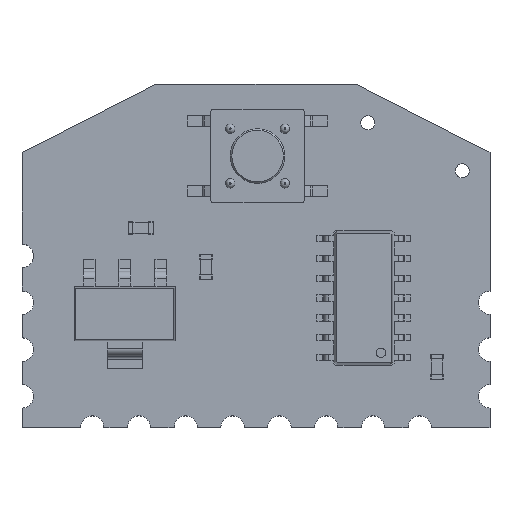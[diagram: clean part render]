
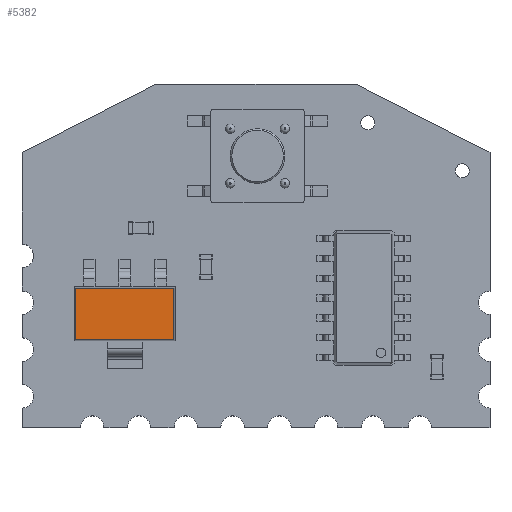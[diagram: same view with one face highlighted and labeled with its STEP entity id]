
A CAD part, top view. The second image highlights one B-rep face of the part: STEP entity #5382.
In plain terms, the highlighted planar face has unit normal (0, 0, 1).
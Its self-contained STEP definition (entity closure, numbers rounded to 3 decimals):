
#1540 = B_SPLINE_SURFACE_WITH_KNOTS('',1,1,(
    (#1541,#1542)
    ,(#1543,#1544
  )),.UNSPECIFIED.,.F.,.F.,.F.,(2,2),(2,2),(0.,6.47),(0.,1.),
  .PIECEWISE_BEZIER_KNOTS.);
#1541 = CARTESIAN_POINT('',(-1.735,3.235,1.035));
#1542 = CARTESIAN_POINT('',(-1.642,3.142,1.7));
#1543 = CARTESIAN_POINT('',(-1.735,-3.235,1.035));
#1544 = CARTESIAN_POINT('',(-1.642,-3.142,1.7));
#3476 = B_SPLINE_SURFACE_WITH_KNOTS('',1,1,(
    (#3477,#3478)
    ,(#3479,#3480
  )),.UNSPECIFIED.,.F.,.F.,.F.,(2,2),(2,2),(0.,3.47),(0.,1.),
  .PIECEWISE_BEZIER_KNOTS.);
#3477 = CARTESIAN_POINT('',(-1.735,-3.235,1.035));
#3478 = CARTESIAN_POINT('',(-1.642,-3.142,1.7));
#3479 = CARTESIAN_POINT('',(1.735,-3.235,1.035));
#3480 = CARTESIAN_POINT('',(1.642,-3.142,1.7));
#3534 = B_SPLINE_SURFACE_WITH_KNOTS('',1,1,(
    (#3535,#3536)
    ,(#3537,#3538
  )),.UNSPECIFIED.,.F.,.F.,.F.,(2,2),(2,2),(0.,6.47),(0.,1.),
  .PIECEWISE_BEZIER_KNOTS.);
#3535 = CARTESIAN_POINT('',(1.735,-3.235,1.035));
#3536 = CARTESIAN_POINT('',(1.642,-3.142,1.7));
#3537 = CARTESIAN_POINT('',(1.735,3.235,1.035));
#3538 = CARTESIAN_POINT('',(1.642,3.142,1.7));
#4189 = B_SPLINE_SURFACE_WITH_KNOTS('',1,1,(
    (#4190,#4191)
    ,(#4192,#4193
  )),.UNSPECIFIED.,.F.,.F.,.F.,(2,2),(2,2),(0.,3.47),(0.,1.),
  .PIECEWISE_BEZIER_KNOTS.);
#4190 = CARTESIAN_POINT('',(1.735,3.235,1.035));
#4191 = CARTESIAN_POINT('',(1.642,3.142,1.7));
#4192 = CARTESIAN_POINT('',(-1.735,3.235,1.035));
#4193 = CARTESIAN_POINT('',(-1.642,3.142,1.7));
#4273 = VERTEX_POINT('',#4274);
#4274 = CARTESIAN_POINT('',(-1.642,-3.142,1.7));
#4294 = EDGE_CURVE('',#4295,#4273,#4297,.T.);
#4295 = VERTEX_POINT('',#4296);
#4296 = CARTESIAN_POINT('',(-1.642,3.142,1.7));
#4297 = SURFACE_CURVE('',#4298,(#4302,#4308),.PCURVE_S1.);
#4298 = LINE('',#4299,#4300);
#4299 = CARTESIAN_POINT('',(-1.642,3.142,1.7));
#4300 = VECTOR('',#4301,1.);
#4301 = DIRECTION('',(0.,-1.,0.));
#4302 = PCURVE('',#1540,#4303);
#4303 = DEFINITIONAL_REPRESENTATION('',(#4304),#4307);
#4304 = B_SPLINE_CURVE_WITH_KNOTS('',1,(#4305,#4306),.UNSPECIFIED.,.F.,
  .F.,(2,2),(0.,6.283),.PIECEWISE_BEZIER_KNOTS.);
#4305 = CARTESIAN_POINT('',(0.,1.));
#4306 = CARTESIAN_POINT('',(6.47,1.));
#4307 = ( GEOMETRIC_REPRESENTATION_CONTEXT(2) 
PARAMETRIC_REPRESENTATION_CONTEXT() REPRESENTATION_CONTEXT('2D SPACE',''
  ) );
#4308 = PCURVE('',#4309,#4314);
#4309 = PLANE('',#4310);
#4310 = AXIS2_PLACEMENT_3D('',#4311,#4312,#4313);
#4311 = CARTESIAN_POINT('',(-1.642,3.142,1.7));
#4312 = DIRECTION('',(0.,0.,-1.));
#4313 = DIRECTION('',(0.463,-0.886,0.));
#4314 = DEFINITIONAL_REPRESENTATION('',(#4315),#4319);
#4315 = LINE('',#4316,#4317);
#4316 = CARTESIAN_POINT('',(0.,0.));
#4317 = VECTOR('',#4318,1.);
#4318 = DIRECTION('',(0.886,0.463));
#4319 = ( GEOMETRIC_REPRESENTATION_CONTEXT(2) 
PARAMETRIC_REPRESENTATION_CONTEXT() REPRESENTATION_CONTEXT('2D SPACE',''
  ) );
#5021 = VERTEX_POINT('',#5022);
#5022 = CARTESIAN_POINT('',(1.642,-3.142,1.7));
#5042 = EDGE_CURVE('',#4273,#5021,#5043,.T.);
#5043 = SURFACE_CURVE('',#5044,(#5048,#5054),.PCURVE_S1.);
#5044 = LINE('',#5045,#5046);
#5045 = CARTESIAN_POINT('',(-1.642,-3.142,1.7));
#5046 = VECTOR('',#5047,1.);
#5047 = DIRECTION('',(1.,0.,0.));
#5048 = PCURVE('',#3476,#5049);
#5049 = DEFINITIONAL_REPRESENTATION('',(#5050),#5053);
#5050 = B_SPLINE_CURVE_WITH_KNOTS('',1,(#5051,#5052),.UNSPECIFIED.,.F.,
  .F.,(2,2),(0.,3.283),.PIECEWISE_BEZIER_KNOTS.);
#5051 = CARTESIAN_POINT('',(0.,1.));
#5052 = CARTESIAN_POINT('',(3.47,1.));
#5053 = ( GEOMETRIC_REPRESENTATION_CONTEXT(2) 
PARAMETRIC_REPRESENTATION_CONTEXT() REPRESENTATION_CONTEXT('2D SPACE',''
  ) );
#5054 = PCURVE('',#4309,#5055);
#5055 = DEFINITIONAL_REPRESENTATION('',(#5056),#5060);
#5056 = LINE('',#5057,#5058);
#5057 = CARTESIAN_POINT('',(5.569,2.91));
#5058 = VECTOR('',#5059,1.);
#5059 = DIRECTION('',(0.463,-0.886));
#5060 = ( GEOMETRIC_REPRESENTATION_CONTEXT(2) 
PARAMETRIC_REPRESENTATION_CONTEXT() REPRESENTATION_CONTEXT('2D SPACE',''
  ) );
#5090 = VERTEX_POINT('',#5091);
#5091 = CARTESIAN_POINT('',(1.642,3.142,1.7));
#5111 = EDGE_CURVE('',#5021,#5090,#5112,.T.);
#5112 = SURFACE_CURVE('',#5113,(#5117,#5123),.PCURVE_S1.);
#5113 = LINE('',#5114,#5115);
#5114 = CARTESIAN_POINT('',(1.642,-3.142,1.7));
#5115 = VECTOR('',#5116,1.);
#5116 = DIRECTION('',(0.,1.,0.));
#5117 = PCURVE('',#3534,#5118);
#5118 = DEFINITIONAL_REPRESENTATION('',(#5119),#5122);
#5119 = B_SPLINE_CURVE_WITH_KNOTS('',1,(#5120,#5121),.UNSPECIFIED.,.F.,
  .F.,(2,2),(0.,6.283),.PIECEWISE_BEZIER_KNOTS.);
#5120 = CARTESIAN_POINT('',(0.,1.));
#5121 = CARTESIAN_POINT('',(6.47,1.));
#5122 = ( GEOMETRIC_REPRESENTATION_CONTEXT(2) 
PARAMETRIC_REPRESENTATION_CONTEXT() REPRESENTATION_CONTEXT('2D SPACE',''
  ) );
#5123 = PCURVE('',#4309,#5124);
#5124 = DEFINITIONAL_REPRESENTATION('',(#5125),#5129);
#5125 = LINE('',#5126,#5127);
#5126 = CARTESIAN_POINT('',(7.089,0.));
#5127 = VECTOR('',#5128,1.);
#5128 = DIRECTION('',(-0.886,-0.463));
#5129 = ( GEOMETRIC_REPRESENTATION_CONTEXT(2) 
PARAMETRIC_REPRESENTATION_CONTEXT() REPRESENTATION_CONTEXT('2D SPACE',''
  ) );
#5362 = EDGE_CURVE('',#5090,#4295,#5363,.T.);
#5363 = SURFACE_CURVE('',#5364,(#5368,#5374),.PCURVE_S1.);
#5364 = LINE('',#5365,#5366);
#5365 = CARTESIAN_POINT('',(1.642,3.142,1.7));
#5366 = VECTOR('',#5367,1.);
#5367 = DIRECTION('',(-1.,0.,0.));
#5368 = PCURVE('',#4189,#5369);
#5369 = DEFINITIONAL_REPRESENTATION('',(#5370),#5373);
#5370 = B_SPLINE_CURVE_WITH_KNOTS('',1,(#5371,#5372),.UNSPECIFIED.,.F.,
  .F.,(2,2),(0.,3.283),.PIECEWISE_BEZIER_KNOTS.);
#5371 = CARTESIAN_POINT('',(0.,1.));
#5372 = CARTESIAN_POINT('',(3.47,1.));
#5373 = ( GEOMETRIC_REPRESENTATION_CONTEXT(2) 
PARAMETRIC_REPRESENTATION_CONTEXT() REPRESENTATION_CONTEXT('2D SPACE',''
  ) );
#5374 = PCURVE('',#4309,#5375);
#5375 = DEFINITIONAL_REPRESENTATION('',(#5376),#5380);
#5376 = LINE('',#5377,#5378);
#5377 = CARTESIAN_POINT('',(1.52,-2.91));
#5378 = VECTOR('',#5379,1.);
#5379 = DIRECTION('',(-0.463,0.886));
#5380 = ( GEOMETRIC_REPRESENTATION_CONTEXT(2) 
PARAMETRIC_REPRESENTATION_CONTEXT() REPRESENTATION_CONTEXT('2D SPACE',''
  ) );
#5382 = ADVANCED_FACE('',(#5383),#4309,.F.);
#5383 = FACE_BOUND('',#5384,.T.);
#5384 = EDGE_LOOP('',(#5385,#5386,#5387,#5388));
#5385 = ORIENTED_EDGE('',*,*,#4294,.T.);
#5386 = ORIENTED_EDGE('',*,*,#5042,.T.);
#5387 = ORIENTED_EDGE('',*,*,#5111,.T.);
#5388 = ORIENTED_EDGE('',*,*,#5362,.T.);
